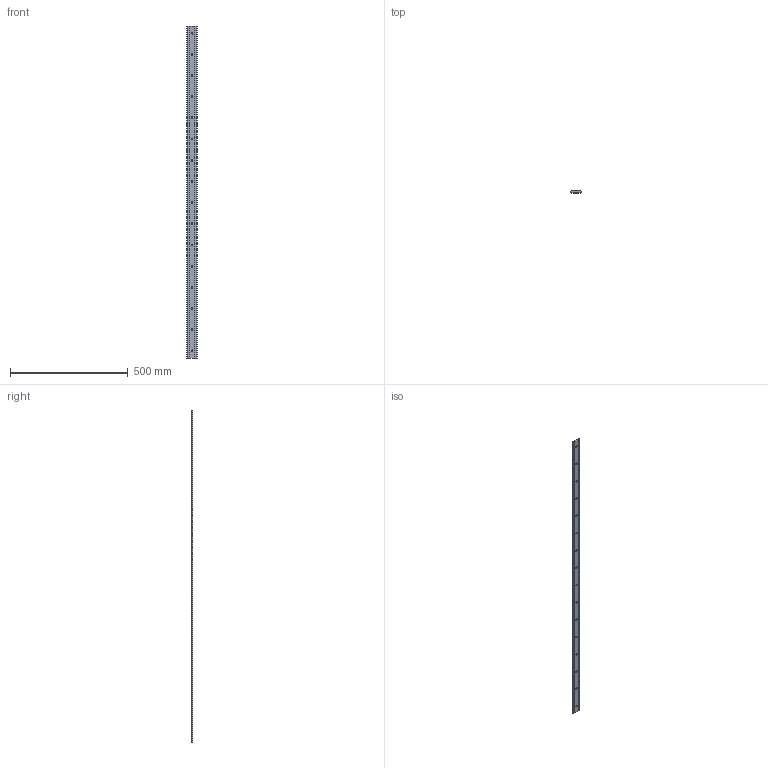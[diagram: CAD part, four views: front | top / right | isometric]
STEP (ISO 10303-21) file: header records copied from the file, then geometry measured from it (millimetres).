
FILE_DESCRIPTION(('STEP AP203'),'1');
FILE_NAME('//192.168.1.1/share/s-4 技術開発/s-4-4_CAD/s-4-4-6_見直し、確認済み/014 修正済み(済)/GF_TOP/GF-44N-1410.step','2022-03-14T00:59:33',(' '),(' '),'Spatial InterOp 3D',' ',' ');
FILE_SCHEMA(('CONFIG_CONTROL_DESIGN'));
Length unit declared in the file: millimetre
Products named in the file (1): 1
Bounding box: 43.94 x 6.42 x 1410 mm (x, y, z)
Volume: 358022.1 mm3; surface area: 134716.9 mm2
Topology: 1 solids, 1 shells, 66 faces, 176 edges, 112 vertices
Faces by surface type: cone 32, cylinder 20, plane 14
Full cylindrical faces by diameter (mm): 7 x16
Entity records: 1788 total; most frequent: DIRECTION 318, CARTESIAN_POINT 275, ORIENTED_EDGE 224, EDGE_LOOP 146, AXIS2_PLACEMENT_3D 139, EDGE_CURVE 112, VERTEX_POINT 96, FACE_OUTER_BOUND 82
